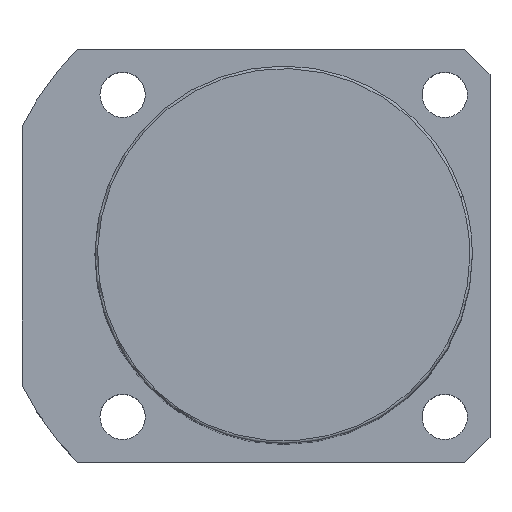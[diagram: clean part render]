
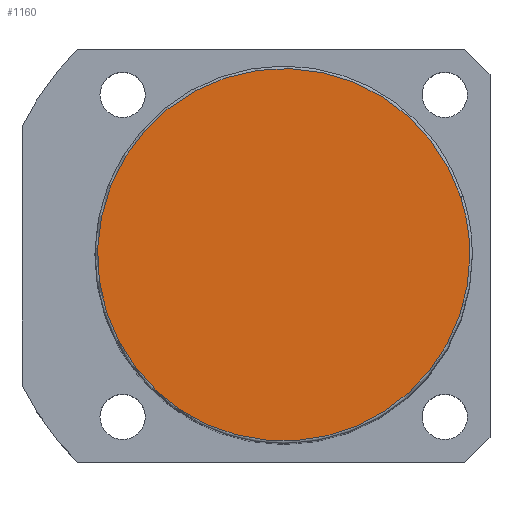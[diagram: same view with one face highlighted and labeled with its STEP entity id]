
A CAD part, top view. The second image highlights one B-rep face of the part: STEP entity #1160.
In plain terms, the highlighted planar face has unit normal (0, 0, 1).
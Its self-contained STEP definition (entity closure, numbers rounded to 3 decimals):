
#1126=CARTESIAN_POINT('',(37.0,0.0,143.0));
#1127=VERTEX_POINT('',#1126);
#1128=CARTESIAN_POINT('',(35.189,11.434,143.0));
#1129=VERTEX_POINT('',#1128);
#1130=CARTESIAN_POINT('',(0.0,0.0,143.0));
#1131=DIRECTION('',(0.0,0.0,1.0));
#1132=DIRECTION('',(1.0,0.0,0.0));
#1133=AXIS2_PLACEMENT_3D('',#1130,#1131,#1132);
#1134=CIRCLE('',#1133,37.0);
#1135=EDGE_CURVE('no 1718',#1127,#1129,#1134,.T.);
#1136=ORIENTED_EDGE('',*,*,#1135,.T.);
#1137=CARTESIAN_POINT('',(-35.189,-11.434,143.0));
#1138=VERTEX_POINT('',#1137);
#1139=CARTESIAN_POINT('',(0.0,0.0,143.0));
#1140=DIRECTION('',(0.0,0.0,1.0));
#1141=DIRECTION('',(1.0,0.0,0.0));
#1142=AXIS2_PLACEMENT_3D('',#1139,#1140,#1141);
#1143=CIRCLE('',#1142,37.0);
#1144=EDGE_CURVE('no 1724',#1129,#1138,#1143,.T.);
#1145=ORIENTED_EDGE('',*,*,#1144,.T.);
#1146=CARTESIAN_POINT('',(0.0,0.0,143.0));
#1147=DIRECTION('',(0.0,0.0,1.0));
#1148=DIRECTION('',(1.0,0.0,0.0));
#1149=AXIS2_PLACEMENT_3D('',#1146,#1147,#1148);
#1150=CIRCLE('',#1149,37.0);
#1151=EDGE_CURVE('no 1728',#1138,#1127,#1150,.T.);
#1152=ORIENTED_EDGE('',*,*,#1151,.T.);
#1153=EDGE_LOOP('',(#1136,#1145,#1152));
#1154=FACE_OUTER_BOUND('',#1153,.T.);
#1155=CARTESIAN_POINT('',(0.0,0.0,143.0));
#1156=DIRECTION('',(0.0,0.0,1.0));
#1157=DIRECTION('',(1.0,0.0,0.0));
#1158=AXIS2_PLACEMENT_3D('',#1155,#1156,#1157);
#1159=PLANE('',#1158);
#1160=ADVANCED_FACE('no 1709',(#1154),#1159,.T.);
